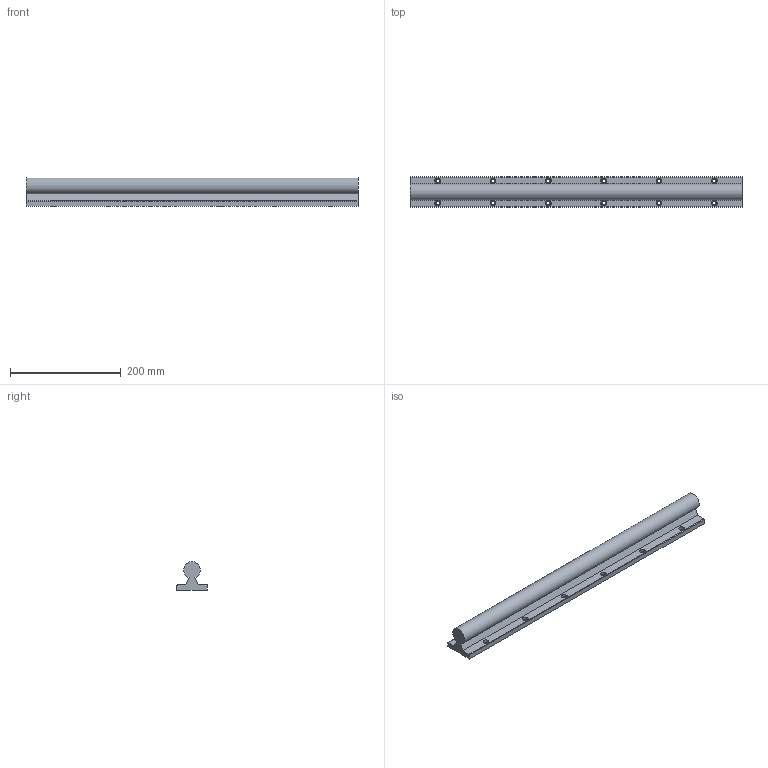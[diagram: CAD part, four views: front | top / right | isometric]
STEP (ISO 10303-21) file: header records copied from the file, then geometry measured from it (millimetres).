
FILE_DESCRIPTION((''),'2;1');
FILE_NAME('C:\Documents and Settings\土屋\My Documents\土屋移動用フォルダ\製品 (図面)\カタログ用3D\丸軸リニアガイド(ハウジング)変更\GC30R.stp','2015-07-23T10:38:11',('y'),(''),'Autodesk Inventor 11','Autodesk Inventor 11','');
FILE_SCHEMA(('AUTOMOTIVE_DESIGN { 1 0 10303 214 1 1 1 1 }'));
Length unit declared in the file: millimetre
Products named in the file (1): G30R4
Bounding box: 600 x 55 x 51.95 mm (x, y, z)
Volume: 860583.1 mm3; surface area: 136858 mm2
Topology: 1 solids, 1 shells, 53 faces, 117 edges, 78 vertices
Faces by surface type: bspline 36, plane 11, cylinder 6
Entity records: 1754 total; most frequent: CARTESIAN_POINT 669, DIRECTION 189, ORIENTED_EDGE 186, EDGE_LOOP 113, EDGE_CURVE 93, AXIS2_PLACEMENT_3D 78, VERTEX_POINT 78, CIRCLE 60
